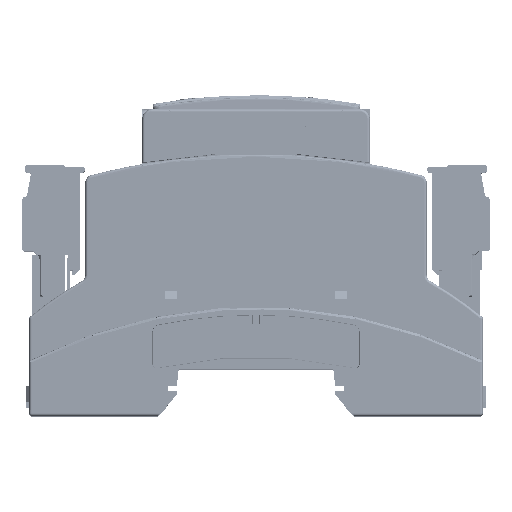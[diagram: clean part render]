
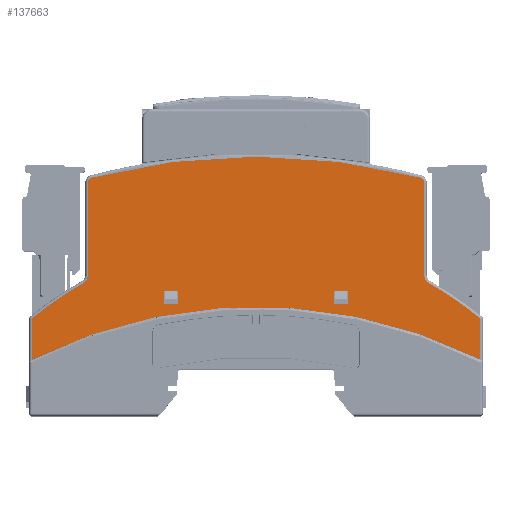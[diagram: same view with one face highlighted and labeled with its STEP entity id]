
A CAD part, top view. The second image highlights one B-rep face of the part: STEP entity #137663.
In plain terms, the highlighted planar face has unit normal (0, 0, 1).
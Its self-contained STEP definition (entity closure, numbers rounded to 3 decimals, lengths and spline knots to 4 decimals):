
#2763=FACE_BOUND('',#15810,.T.);
#2764=FACE_BOUND('',#15811,.T.);
#4980=CIRCLE('',#145202,0.0787);
#4988=CIRCLE('',#145223,5.0866);
#4989=CIRCLE('',#145224,0.0394);
#4990=CIRCLE('',#145225,0.0787);
#4991=CIRCLE('',#145226,2.7362);
#4992=CIRCLE('',#145227,3.9173);
#4993=CIRCLE('',#145228,2.7362);
#4994=CIRCLE('',#145229,0.0394);
#8343=FACE_OUTER_BOUND('',#15809,.T.);
#15809=EDGE_LOOP('',(#86372,#86373,#86374,#86375,#86376,#86377,#86378,#86379,
#86380,#86381,#86382,#86383));
#15810=EDGE_LOOP('',(#86384,#86385,#86386,#86387));
#15811=EDGE_LOOP('',(#86388,#86389,#86390,#86391));
#24971=LINE('',#193816,#39675);
#25030=LINE('',#193995,#39734);
#25031=LINE('',#194001,#39735);
#25032=LINE('',#194005,#39736);
#25033=LINE('',#194009,#39737);
#25034=LINE('',#194011,#39738);
#25035=LINE('',#194013,#39739);
#25036=LINE('',#194014,#39740);
#25037=LINE('',#194017,#39741);
#25038=LINE('',#194019,#39742);
#25039=LINE('',#194021,#39743);
#25040=LINE('',#194022,#39744);
#39675=VECTOR('',#156651,0.0394);
#39734=VECTOR('',#156734,0.0394);
#39735=VECTOR('',#156739,0.0394);
#39736=VECTOR('',#156744,0.0394);
#39737=VECTOR('',#156747,0.0394);
#39738=VECTOR('',#156748,0.0394);
#39739=VECTOR('',#156749,0.0394);
#39740=VECTOR('',#156750,0.0394);
#39741=VECTOR('',#156751,0.0394);
#39742=VECTOR('',#156752,0.0394);
#39743=VECTOR('',#156753,0.0394);
#39744=VECTOR('',#156754,0.0394);
#54369=VERTEX_POINT('',#193790);
#54370=VERTEX_POINT('',#193792);
#54377=VERTEX_POINT('',#193814);
#54378=VERTEX_POINT('',#193815);
#54434=VERTEX_POINT('',#193989);
#54435=VERTEX_POINT('',#193990);
#54436=VERTEX_POINT('',#193992);
#54437=VERTEX_POINT('',#193994);
#54438=VERTEX_POINT('',#193996);
#54439=VERTEX_POINT('',#193998);
#54440=VERTEX_POINT('',#194000);
#54441=VERTEX_POINT('',#194004);
#54442=VERTEX_POINT('',#194007);
#54443=VERTEX_POINT('',#194008);
#54444=VERTEX_POINT('',#194010);
#54445=VERTEX_POINT('',#194012);
#54446=VERTEX_POINT('',#194015);
#54447=VERTEX_POINT('',#194016);
#54448=VERTEX_POINT('',#194018);
#54449=VERTEX_POINT('',#194020);
#66820=EDGE_CURVE('',#54370,#54369,#4980,.T.);
#66831=EDGE_CURVE('',#54377,#54378,#24971,.T.);
#66892=EDGE_CURVE('',#54434,#54435,#4988,.T.);
#66893=EDGE_CURVE('',#54434,#54436,#4989,.T.);
#66894=EDGE_CURVE('',#54436,#54437,#25030,.T.);
#66895=EDGE_CURVE('',#54438,#54437,#4990,.T.);
#66896=EDGE_CURVE('',#54438,#54439,#4991,.T.);
#66897=EDGE_CURVE('',#54439,#54440,#25031,.T.);
#66898=EDGE_CURVE('',#54378,#54440,#4992,.T.);
#66899=EDGE_CURVE('',#54370,#54377,#4993,.T.);
#66900=EDGE_CURVE('',#54441,#54369,#25032,.T.);
#66901=EDGE_CURVE('',#54441,#54435,#4994,.T.);
#66902=EDGE_CURVE('',#54442,#54443,#25033,.T.);
#66903=EDGE_CURVE('',#54444,#54442,#25034,.T.);
#66904=EDGE_CURVE('',#54445,#54444,#25035,.T.);
#66905=EDGE_CURVE('',#54443,#54445,#25036,.T.);
#66906=EDGE_CURVE('',#54446,#54447,#25037,.T.);
#66907=EDGE_CURVE('',#54448,#54446,#25038,.T.);
#66908=EDGE_CURVE('',#54449,#54448,#25039,.T.);
#66909=EDGE_CURVE('',#54447,#54449,#25040,.T.);
#86372=ORIENTED_EDGE('',*,*,#66892,.F.);
#86373=ORIENTED_EDGE('',*,*,#66893,.T.);
#86374=ORIENTED_EDGE('',*,*,#66894,.T.);
#86375=ORIENTED_EDGE('',*,*,#66895,.F.);
#86376=ORIENTED_EDGE('',*,*,#66896,.T.);
#86377=ORIENTED_EDGE('',*,*,#66897,.T.);
#86378=ORIENTED_EDGE('',*,*,#66898,.F.);
#86379=ORIENTED_EDGE('',*,*,#66831,.F.);
#86380=ORIENTED_EDGE('',*,*,#66899,.F.);
#86381=ORIENTED_EDGE('',*,*,#66820,.T.);
#86382=ORIENTED_EDGE('',*,*,#66900,.F.);
#86383=ORIENTED_EDGE('',*,*,#66901,.T.);
#86384=ORIENTED_EDGE('',*,*,#66902,.F.);
#86385=ORIENTED_EDGE('',*,*,#66903,.F.);
#86386=ORIENTED_EDGE('',*,*,#66904,.F.);
#86387=ORIENTED_EDGE('',*,*,#66905,.F.);
#86388=ORIENTED_EDGE('',*,*,#66906,.F.);
#86389=ORIENTED_EDGE('',*,*,#66907,.F.);
#86390=ORIENTED_EDGE('',*,*,#66908,.F.);
#86391=ORIENTED_EDGE('',*,*,#66909,.F.);
#124647=PLANE('',#145222);
#137663=ADVANCED_FACE('',(#8343,#2763,#2764),#124647,.F.);
#145202=AXIS2_PLACEMENT_3D('',#193793,#156625,#156626);
#145222=AXIS2_PLACEMENT_3D('',#193988,#156728,#156729);
#145223=AXIS2_PLACEMENT_3D('',#193991,#156730,#156731);
#145224=AXIS2_PLACEMENT_3D('',#193993,#156732,#156733);
#145225=AXIS2_PLACEMENT_3D('',#193997,#156735,#156736);
#145226=AXIS2_PLACEMENT_3D('',#193999,#156737,#156738);
#145227=AXIS2_PLACEMENT_3D('',#194002,#156740,#156741);
#145228=AXIS2_PLACEMENT_3D('',#194003,#156742,#156743);
#145229=AXIS2_PLACEMENT_3D('',#194006,#156745,#156746);
#156625=DIRECTION('center_axis',(0.,0.,
-1.));
#156626=DIRECTION('ref_axis',(0.,-1.,0.));
#156651=DIRECTION('',(0.,-1.,0.));
#156728=DIRECTION('center_axis',(0.,0.,
-1.));
#156729=DIRECTION('ref_axis',(-1.,0.,0.));
#156730=DIRECTION('center_axis',(0.,0.,
-1.));
#156731=DIRECTION('ref_axis',(1.,0.,0.));
#156732=DIRECTION('center_axis',(0.,0.,
1.));
#156733=DIRECTION('ref_axis',(-1.,0.,0.));
#156734=DIRECTION('',(0.,-1.,0.));
#156735=DIRECTION('center_axis',(0.,0.,
1.));
#156736=DIRECTION('ref_axis',(0.,1.,0.));
#156737=DIRECTION('center_axis',(0.,0.,
1.));
#156738=DIRECTION('ref_axis',(0.,1.,0.));
#156739=DIRECTION('',(0.,-1.,0.));
#156740=DIRECTION('center_axis',(0.,0.,
1.));
#156741=DIRECTION('ref_axis',(1.,0.,0.));
#156742=DIRECTION('center_axis',(0.,0.,
-1.));
#156743=DIRECTION('ref_axis',(0.,-1.,0.));
#156744=DIRECTION('',(0.,-1.,0.));
#156745=DIRECTION('center_axis',(0.,0.,
1.));
#156746=DIRECTION('ref_axis',(-1.,0.,0.));
#156747=DIRECTION('',(0.,-1.,0.));
#156748=DIRECTION('',(-1.,0.,0.));
#156749=DIRECTION('',(0.,1.,0.));
#156750=DIRECTION('',(1.,0.,0.));
#156751=DIRECTION('',(1.,0.,0.));
#156752=DIRECTION('',(0.,-1.,0.));
#156753=DIRECTION('',(-1.,0.,0.));
#156754=DIRECTION('',(0.,1.,0.));
#193790=CARTESIAN_POINT('',(1.3091,0.8644,2.8268));
#193792=CARTESIAN_POINT('',(1.349,0.7959,2.8268));
#193793=CARTESIAN_POINT('Origin',(1.3878,0.8644,2.8268));
#193814=CARTESIAN_POINT('',(1.7461,0.522,2.8268));
#193815=CARTESIAN_POINT('',(1.7461,0.2035,2.8268));
#193816=CARTESIAN_POINT('',(1.7461,-0.0906,2.8268));
#193988=CARTESIAN_POINT('Origin',(0.7223,1.4956,2.8268));
#193989=CARTESIAN_POINT('',(-1.2796,1.6199,2.8268));
#193990=CARTESIAN_POINT('',(1.2796,1.6199,2.8268));
#193991=CARTESIAN_POINT('Origin',(0.,-3.3031,
2.8268));
#193992=CARTESIAN_POINT('',(-1.3091,1.5818,2.8268));
#193993=CARTESIAN_POINT('Origin',(-1.2697,1.5818,2.8268));
#193994=CARTESIAN_POINT('',(-1.3091,0.8644,2.8268));
#193995=CARTESIAN_POINT('',(-1.3091,-0.0906,2.8268));
#193996=CARTESIAN_POINT('',(-1.349,0.7959,2.8268));
#193997=CARTESIAN_POINT('Origin',(-1.3878,0.8644,2.8268));
#193998=CARTESIAN_POINT('',(-1.7461,0.522,2.8268));
#193999=CARTESIAN_POINT('Origin',(0.,-1.5846,
2.8268));
#194000=CARTESIAN_POINT('',(-1.7461,0.2035,2.8268));
#194001=CARTESIAN_POINT('',(-1.7461,1.4956,2.8268));
#194002=CARTESIAN_POINT('Origin',(0.,-3.3031,
2.8268));
#194003=CARTESIAN_POINT('Origin',(0.,-1.5846,
2.8268));
#194004=CARTESIAN_POINT('',(1.3091,1.5818,2.8268));
#194005=CARTESIAN_POINT('',(1.3091,-0.0906,2.8268));
#194006=CARTESIAN_POINT('Origin',(1.2697,1.5818,2.8268));
#194007=CARTESIAN_POINT('',(0.6102,0.7402,2.8268));
#194008=CARTESIAN_POINT('',(0.6102,0.6378,2.8268));
#194009=CARTESIAN_POINT('',(0.6102,-0.0591,2.8268));
#194010=CARTESIAN_POINT('',(0.7126,0.7402,2.8268));
#194011=CARTESIAN_POINT('',(-0.2224,0.7402,2.8268));
#194012=CARTESIAN_POINT('',(0.7126,0.6378,2.8268));
#194013=CARTESIAN_POINT('',(0.7126,-0.0591,2.8268));
#194014=CARTESIAN_POINT('',(-0.2224,0.6378,2.8268));
#194015=CARTESIAN_POINT('',(-0.7126,0.6378,2.8268));
#194016=CARTESIAN_POINT('',(-0.6102,0.6378,2.8268));
#194017=CARTESIAN_POINT('',(-0.2224,0.6378,2.8268));
#194018=CARTESIAN_POINT('',(-0.7126,0.7402,2.8268));
#194019=CARTESIAN_POINT('',(-0.7126,-0.0591,2.8268));
#194020=CARTESIAN_POINT('',(-0.6102,0.7402,2.8268));
#194021=CARTESIAN_POINT('',(-0.2224,0.7402,2.8268));
#194022=CARTESIAN_POINT('',(-0.6102,-0.0591,2.8268));
